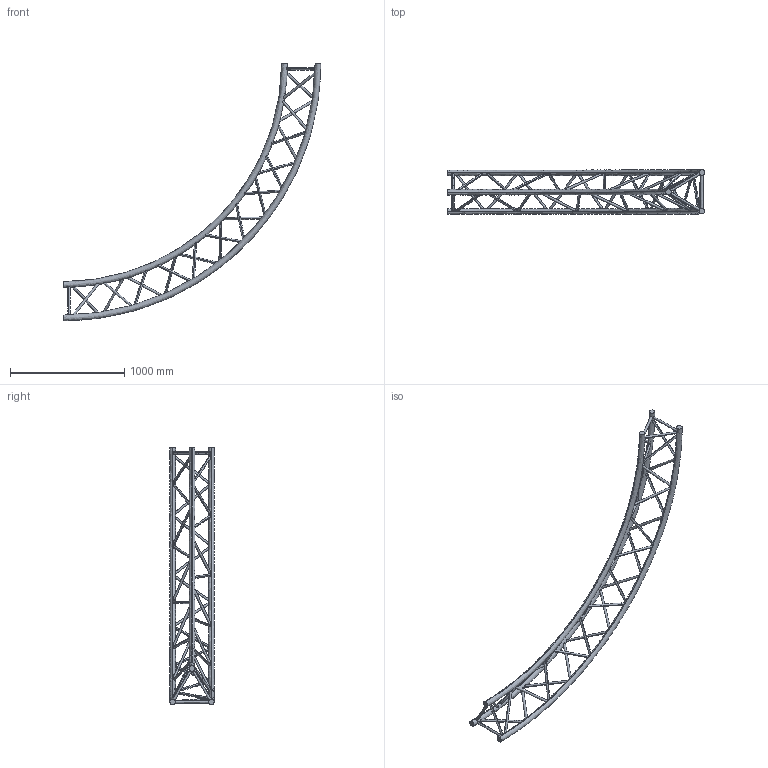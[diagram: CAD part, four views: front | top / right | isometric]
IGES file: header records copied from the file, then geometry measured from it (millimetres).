
Start section: SolidWorks IGES file using analytic representation for surfaces
Global section: file name: K:\BIBLIO\asd_biblio\SX390\Cercles\SXC39PI\SXC39450PI\SXC39450PI.IGS; native system: SolidWorks 2009; preprocessor: SolidWorks 2009; author: des3; date: 091021.134151; units: millimetre
Bounding box: 2250 x 387 x 2250 mm (x, y, z)
Surface area: 2484637.3 mm2 (no closed solid volume)
Topology: 0 solids, 0 shells, 96 faces, 6865 edges, 6865 vertices
Faces by surface type: revolution 84, bspline 12
